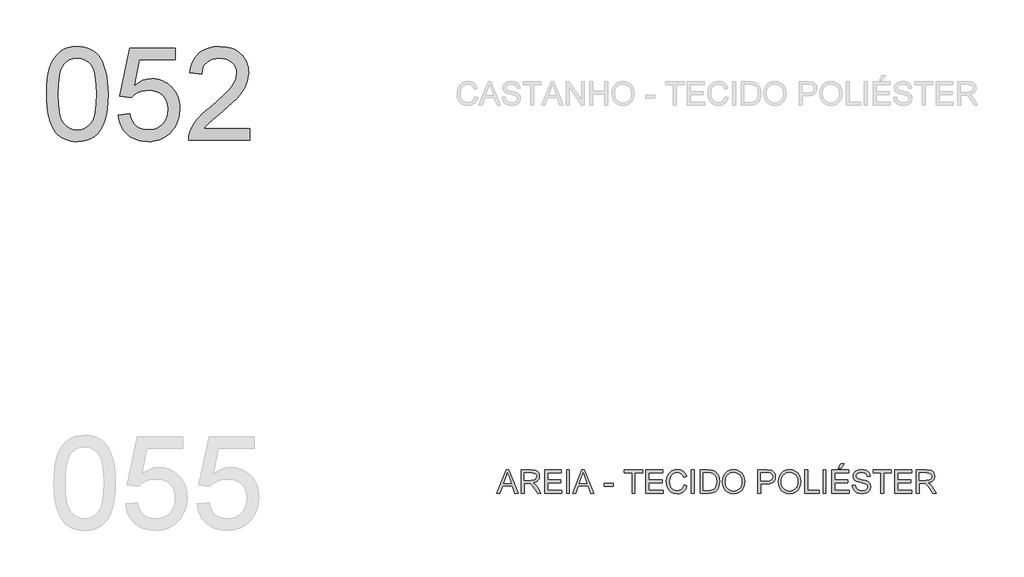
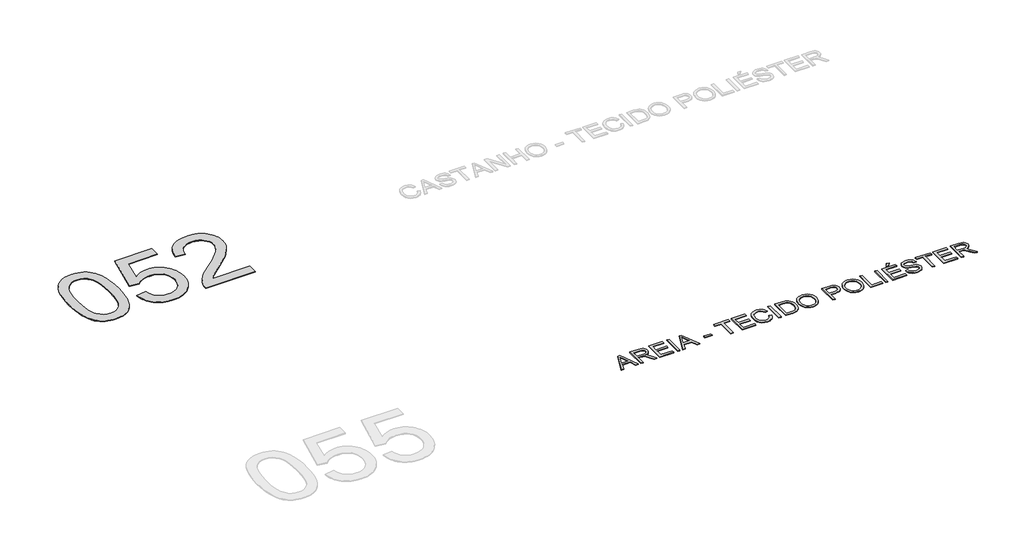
# One storey, part 18 of 67: 2 proxies.
"""IFC4 building model written with IfcOpenShell, lengths in millimetres."""

import ifcopenshell
import ifcopenshell.guid

model = None  # the IFC model being written
_history = None  # IfcOwnerHistory: only IFC2X3 demands one
_inside = {}  # id of a spatial element -> (the spatial element, [elements in it])
_under = {}  # id of a project, library or spatial element -> (it, [spatial elements below it])
_declared = {}  # id of a project -> (the project, [libraries it declares])
_typed = {}  # id of a type object -> (the type object, [elements of that type])
_made_of = {}  # id of a material, layer set ... -> (it, [elements and type objects made of it])


def new_model(schema):
    """Start an empty IFC model of exactly this schema.

    Asked for "IFC4X3", IfcOpenShell would pick the latest addendum, in which some entities
    have other attributes; the version numbers below select the first issue.
    IFC2X3 requires an IfcOwnerHistory on every rooted entity: one is made here for all.
    """
    global model, _history
    if schema == "IFC4X3":
        model = ifcopenshell.file(schema_version=(4, 3, 0, 0))
    else:
        model = ifcopenshell.file(schema=schema)
    _inside.clear()
    _under.clear()
    _declared.clear()
    _typed.clear()
    _made_of.clear()
    _history = None
    if model.schema == "IFC2X3":
        org = make("IfcOrganization", Name="unknown")
        user = make(
            "IfcPersonAndOrganization",
            ThePerson=make("IfcPerson", FamilyName="unknown"),
            TheOrganization=org,
        )
        app = make(
            "IfcApplication",
            ApplicationDeveloper=org,
            Version="unknown",
            ApplicationFullName="unknown",
            ApplicationIdentifier="unknown",
        )
        _history = make(
            "IfcOwnerHistory",
            OwningUser=user,
            OwningApplication=app,
            ChangeAction="ADDED",
            CreationDate=0,
        )
    return model


def make(cls, **values):
    """One entity of the class cls with the attributes given. An attribute that is None is left unset."""
    return model.create_entity(
        cls, **{name: value for name, value in values.items() if value is not None}
    )


def rooted(cls, **values):
    """An entity with a GlobalId (a new one), such as an element, a storey or a relation."""
    return make(cls, GlobalId=ifcopenshell.guid.new(), OwnerHistory=_history, **values)


def si_unit(unit_type, name, prefix=None):
    """IfcSIUnit, for example si_unit("LENGTHUNIT", "METRE", prefix="MILLI")."""
    return make("IfcSIUnit", UnitType=unit_type, Prefix=prefix, Name=name)


def assignment(units):
    """IfcUnitAssignment: the units of a project."""
    return None if units is None else make("IfcUnitAssignment", Units=units)


def point(xyz):
    """IfcCartesianPoint."""
    return None if xyz is None else make("IfcCartesianPoint", Coordinates=xyz)


def direction(xyz):
    """IfcDirection."""
    return None if xyz is None else make("IfcDirection", DirectionRatios=xyz)


def frame(location, z_axis=None, x_axis=None):
    """IfcAxis2Placement3D, a coordinate frame: its origin and axes. An axis left out is left unset."""
    return make(
        "IfcAxis2Placement3D",
        Location=point(location),
        Axis=direction(z_axis),
        RefDirection=direction(x_axis),
    )


def origin():
    """The frame at (0, 0, 0) with its axes left unset."""
    return frame((0.0, 0.0, 0.0))


def origin_with_axes():
    """The frame at (0, 0, 0) with the z axis (0, 0, 1) and the x axis (1, 0, 0) written out."""
    return frame((0.0, 0.0, 0.0), z_axis=(0.0, 0.0, 1.0), x_axis=(1.0, 0.0, 0.0))


def place(relative_to, where):
    """IfcLocalPlacement: puts the frame where relative to a parent placement (None: the world)."""
    return make(
        "IfcLocalPlacement", PlacementRelTo=relative_to, RelativePlacement=where
    )


def context(
    kind, dimensions, precision=None, world=None, true_north=None, identifier=None
):
    """IfcGeometricRepresentationContext, for example the 3D "Model" context."""
    return make(
        "IfcGeometricRepresentationContext",
        ContextIdentifier=identifier,
        ContextType=kind,
        CoordinateSpaceDimension=dimensions,
        Precision=precision,
        WorldCoordinateSystem=world,
        TrueNorth=true_north,
    )


def project(units=None, contexts=None):
    """IfcProject with its units and contexts."""
    return rooted(
        "IfcProject",
        Name="project",
        RepresentationContexts=contexts,
        UnitsInContext=assignment(units),
    )


def spatial(cls, under=None, at=None, **own):
    """A site, building, storey or space (cls), placed at a placement, below another one or the project."""
    s = rooted(cls, ObjectPlacement=at, **own)
    if under is not None:
        _under.setdefault(under.id(), (under, []))[1].append(s)
    return s


def polyline(points):
    """IfcPolyline through the points."""
    return make("IfcPolyline", Points=[point(p) for p in points])


def outline(outer, holes=None, kind="AREA"):
    """IfcArbitraryClosedProfileDef: a profile drawn as a closed curve; with holes, ...WithVoids."""
    if holes is None:
        return make("IfcArbitraryClosedProfileDef", ProfileType=kind, OuterCurve=outer)
    return make(
        "IfcArbitraryProfileDefWithVoids",
        ProfileType=kind,
        OuterCurve=outer,
        InnerCurves=holes,
    )


def extrude(swept, where, along, depth):
    """IfcExtrudedAreaSolid: the profile swept, set in the frame where, extruded along a direction by depth."""
    return make(
        "IfcExtrudedAreaSolid",
        SweptArea=swept,
        Position=where,
        ExtrudedDirection=direction(along),
        Depth=depth,
    )


def shape(context_of_items, identifier, shape_type, items):
    """IfcShapeRepresentation: the items that make up one representation, for example the "Body"."""
    return make(
        "IfcShapeRepresentation",
        ContextOfItems=context_of_items,
        RepresentationIdentifier=identifier,
        RepresentationType=shape_type,
        Items=items,
    )


def made_of(thing, what):
    """Note that an element or type object is made of a material, layer set ...; save() writes the relation."""
    if what is not None:
        _made_of.setdefault(what.id(), (what, []))[1].append(thing)
    return thing


def element(
    cls,
    number,
    at=None,
    inside=None,
    cuts=None,
    type_object=None,
    material=None,
    context=None,
    identifier="Body",
    shape_type=None,
    held_by="IfcProductDefinitionShape",
    body=None,
    shapes=None,
    **own,
):
    """One element of the class cls, such as IfcWall. Its Tag is "e" and its number.

    at: its placement. inside: the storey or other place that contains it. cuts: it is an
    opening in that element (IfcRelVoidsElement). A single representation is given by context,
    identifier, shape_type and body (its items); several are given by shapes. held_by: the class
    of the entity that holds the representations. save() writes the other relations.
    """
    e = rooted(cls, Tag="e%d" % number, ObjectPlacement=at, **own)
    if body is not None:
        shapes = [shape(context, identifier, shape_type, body)]
    if shapes is not None:
        e.Representation = make(held_by, Representations=shapes)
    if inside is not None:
        _inside.setdefault(inside.id(), (inside, []))[1].append(e)
    if cuts is not None:
        rooted(
            "IfcRelVoidsElement", RelatingBuildingElement=cuts, RelatedOpeningElement=e
        )
    if type_object is not None:
        _typed.setdefault(type_object.id(), (type_object, []))[1].append(e)
    return made_of(e, material)


def aggregate(whole, parts):
    """IfcRelAggregates: a whole, such as a stair, and the parts it consists of."""
    return rooted("IfcRelAggregates", RelatingObject=whole, RelatedObjects=parts)


def save(model, path):
    """Write the relations noted so far, then the file.

    IfcRelAggregates (storeys below a building ...), IfcRelContainedInSpatialStructure (elements
    in a storey), IfcRelDefinesByType, IfcRelAssociatesMaterial and IfcRelDeclares: one each for
    every whole, place, type object, material and project.
    """
    for whole, parts in _under.values():
        aggregate(whole, parts)
    for where, things in _inside.values():
        rooted(
            "IfcRelContainedInSpatialStructure",
            RelatedElements=things,
            RelatingStructure=where,
        )
    for kind, things in _typed.values():
        rooted("IfcRelDefinesByType", RelatedObjects=things, RelatingType=kind)
    for what, things in _made_of.values():
        rooted("IfcRelAssociatesMaterial", RelatedObjects=things, RelatingMaterial=what)
    for by, libraries in _declared.values():
        rooted("IfcRelDeclares", RelatingContext=by, RelatedDefinitions=libraries)
    model.write(path)


model = new_model("IFC4")

# Units and contexts
model_context = context("Model", 3, world=origin())
ifc_project = project(units=[si_unit("LENGTHUNIT", "METRE", prefix="MILLI")], contexts=[model_context])

# Site, building, storey
site = spatial("IfcSite", under=ifc_project)
building = spatial("IfcBuilding", under=site)
storey = spatial("IfcBuildingStorey", under=building, Name="Marelli - Linha COLAB - Planta Baixa", Elevation=0.0)

# Proxies
placement = place(None, origin())
element("IfcBuildingElementProxy", 1, Name="1200mm Arial", ObjectType="1200mm Arial", at=placement, inside=storey, context=model_context, shape_type="SweptSolid", body=[
    extrude(outline(polyline([(-25228.2202746, -34887.5405438), (-25225.4519626, -34786.1798571), (-25217.1470265, -34694.5864374), (-25203.3054665, -34612.7602846), (-25183.9272824, -34540.7013988), (-25159.0952477, -34477.8211688), (-25128.8921359, -34423.5309833), (-25093.317947, -34377.8308425), (-25052.3726809, -34340.7207462), (-25005.918382, -34312.0075565), (-24953.8170944, -34291.4981353), (-24896.0688182, -34279.1924825), (-24832.6735534, -34275.0905983), (-24785.032835, -34277.5186194), (-24739.8201378, -34284.8026829), (-24697.0354618, -34296.9427888), (-24656.6788069, -34313.938937), (-24619.7250605, -34335.5060189), (-24587.1491098, -34361.3589261), (-24558.9509549, -34391.4976586), (-24535.1305957, -34425.9222163), (-24514.4924157, -34464.4946435), (-24495.8407986, -34507.0769844), (-24464.4972526, -34604.2714076), (-24452.5226937, -34661.4310726), (-24443.9694373, -34727.6958169), (-24438.8374834, -34803.0656407), (-24437.1268322, -34887.5405438), (-24439.867553, -34988.2574371), (-24448.0897156, -35079.3910043), (-24461.7933199, -35160.9412456), (-24480.978366, -35232.9081609), (-24505.6172626, -35295.8159821), (-24535.6824187, -35350.188941), (-24571.1738342, -35396.0270376), (-24612.0915091, -35433.3302719), (-24658.6009903, -35462.2365997), (-24710.8678248, -35482.8839766), (-24768.8920125, -35495.2724028), (-24832.6735534, -35499.4018782), (-24875.3478648, -35497.6084535), (-24915.6677315, -35492.2281793), (-24953.6331534, -35483.2610557), (-24989.2441305, -35470.7070826), (-25022.5006629, -35454.5662601), (-25053.4027505, -35434.8385881), (-25081.9503933, -35411.5240666), (-25108.1435914, -35384.6226957), (-25136.286564, -35342.0265592), (-25160.6771403, -35293.8478134), (-25181.3153202, -35240.0864583), (-25198.2011038, -35180.742494), (-25211.334491, -35115.8159204), (-25220.7154819, -35045.3067375), (-25226.3440764, -34969.2149453), (-25228.2202746, -34887.5405438)]), holes=[polyline([(-25077.5358094, -34887.2462382), (-25073.1212254, -35018.2398197), (-25059.8774736, -35124.2726077), (-25049.9446597, -35167.9287043), (-25037.8045539, -35205.3446024), (-25023.4571561, -35236.5203023), (-25006.9024663, -35261.4558037), (-24969.5256556, -35299.6327578), (-24928.0285665, -35326.9020107), (-24882.4111991, -35343.2635624), (-24832.6735534, -35348.717413), (-24782.9359076, -35343.2451683), (-24737.3185402, -35326.8284343), (-24695.8214512, -35299.4672109), (-24658.4446405, -35261.1614981), (-24641.8899507, -35236.1662158), (-24627.5425529, -35204.9583263), (-24615.402447, -35167.5378296), (-24605.4696332, -35123.9047257), (-24592.2258813, -35018.0006964), (-24587.8112974, -34887.2462382), (-24592.0787285, -34759.7199446), (-24604.881022, -34655.5541577), (-24614.482742, -34612.2314542), (-24626.2181777, -34574.7488774), (-24640.0873289, -34543.1064273), (-24656.0901957, -34517.3041039), (-24692.841607, -34477.2601487), (-24734.8169427, -34448.6573236), (-24782.0162026, -34431.4956285), (-24834.4393869, -34425.7750635), (-24883.9195153, -34430.8150468), (-24928.7643305, -34445.9349968), (-24968.9738326, -34471.1349135), (-25004.5480215, -34506.4147968), (-25021.6545343, -34534.9624397), (-25036.4801787, -34568.954736), (-25049.0249547, -34608.3916859), (-25059.2888624, -34653.2732893), (-25072.9740726, -34759.3704567), (-25077.5358094, -34887.2462382)])]), origin_with_axes(), (0.0, 0.0, 1.0), 10.0),
    extrude(outline(polyline([(-24305.2779251, -35160.3618315), (-24154.5934599, -35141.5262733), (-24143.3362708, -35189.967135), (-24126.9287338, -35231.9884559), (-24105.3708489, -35267.590236), (-24078.6626161, -35296.7724753), (-24046.8592176, -35319.4983855), (-24010.0158358, -35335.7311786), (-23968.1324706, -35345.4708544), (-23921.2091221, -35348.717413), (-23863.8195309, -35344.2016615), (-23813.1989683, -35330.654407), (-23769.3474345, -35308.0756496), (-23732.2649294, -35276.4653891), (-23702.7791875, -35237.3871242), (-23681.7179433, -35192.4043532), (-23669.0811967, -35141.5170763), (-23664.8689479, -35084.7252933), (-23668.8144823, -35031.0513102), (-23680.6510855, -34983.3370154), (-23700.3787575, -34941.5824089), (-23727.9974983, -34905.7874908), (-23763.5992783, -34877.0743011), (-23807.2760682, -34856.5648798), (-23859.0278679, -34844.2592271), (-23918.8546774, -34840.1573429), (-23957.141996, -34841.7944177), (-23991.9528298, -34846.7056424), (-24023.2871787, -34854.8910168), (-24051.1450428, -34866.3505409), (-24098.4178792, -34896.4432881), (-24135.7579017, -34934.3351336), (-24286.4423669, -34915.4995755), (-24154.5934599, -34293.9261564), (-23570.6911571, -34293.9261564), (-23570.6911571, -34444.6106217), (-24032.7509431, -34444.6106217), (-24097.2038686, -34776.5873341), (-24044.0265262, -34738.4747594), (-23989.5615968, -34711.2514918), (-23933.8090805, -34694.9175312), (-23876.7689771, -34689.4728776), (-23839.3300863, -34691.1605363), (-23803.3857161, -34696.2235123), (-23768.9358665, -34704.6618055), (-23735.9805376, -34716.4754161), (-23704.5197292, -34731.664344), (-23674.5534414, -34750.2285891), (-23646.0816742, -34772.1681516), (-23619.1044277, -34797.4830314), (-23594.5138156, -34825.4512601), (-23573.2019517, -34855.3508693), (-23555.1688362, -34887.1818589), (-23540.4144689, -34920.944229), (-23528.9388499, -34956.6379796), (-23520.7419792, -34994.2631106), (-23515.8238568, -35033.8196222), (-23514.1844827, -35075.3075142), (-23520.0889887, -35153.3720736), (-23527.4696212, -35190.3626082), (-23537.8025067, -35225.9919794), (-23551.0876453, -35260.2601873), (-23567.3250369, -35293.1672317), (-23586.5146814, -35324.7131128), (-23608.656579, -35354.8978305), (-23638.6573557, -35388.7659667), (-23671.2700946, -35418.1183514), (-23706.4947956, -35442.9549846), (-23744.3314588, -35463.2758663), (-23784.7800842, -35479.0809965), (-23827.8406717, -35490.3703752), (-23873.5132214, -35497.1440025), (-23921.7977333, -35499.4018782), (-23999.55879, -35493.5985397), (-24035.6181234, -35486.3443667), (-24069.79666, -35476.1885243), (-24102.0943999, -35463.1310128), (-24132.5113431, -35447.171832), (-24161.0474896, -35428.3109819), (-24187.7028394, -35406.5484626), (-24212.0405327, -35382.3901119), (-24233.6237095, -35356.3417673), (-24252.4523698, -35328.4034291), (-24268.5265138, -35298.5750971), (-24281.8461413, -35266.8567713), (-24292.4112523, -35233.2484518), (-24305.2779251, -35160.3618315)])), origin_with_axes(), (0.0, 0.0, 1.0), 10.0),
    extrude(outline(polyline([(-22610.0776913, -35329.8818548), (-22610.0776913, -35480.5663201), (-23401.1711337, -35480.5663201), (-23397.8601958, -35427.5177364), (-23384.984326, -35376.6764446), (-23368.5583949, -35335.7771638), (-23347.8282444, -35295.4848883), (-23322.7938747, -35255.7996181), (-23293.4552856, -35216.7213531), (-23258.0466435, -35176.7233832), (-23214.802115, -35134.278998), (-23104.8053984, -35042.0509818), (-23015.3732854, -34965.1084625), (-22942.2015566, -34897.6205105), (-22885.2902119, -34839.5871258), (-22844.6392514, -34791.0083083), (-22816.1835791, -34747.4510801), (-22795.8580989, -34704.482463), (-22783.6628107, -34662.1024572), (-22779.5977147, -34620.3110625), (-22783.4328845, -34580.9936743), (-22794.9383939, -34544.8584653), (-22814.1142429, -34511.9054356), (-22840.9604315, -34482.1345852), (-22873.9870376, -34457.4772944), (-22911.7041392, -34439.8649439), (-22954.1117362, -34429.2975336), (-23001.2098286, -34425.7750635), (-23050.8279127, -34429.2147602), (-23095.2036784, -34439.5338501), (-23134.3371256, -34456.7323334), (-23168.2282544, -34480.81021), (-23195.6446601, -34510.9581395), (-23215.353938, -34546.3667815), (-23227.3560881, -34587.0361361), (-23231.6511104, -34632.9662032), (-23382.3355756, -34614.130645), (-23369.3769323, -34536.3419971), (-23358.9175873, -34501.1310917), (-23345.8048935, -34468.3757985), (-23330.0388507, -34438.0761177), (-23311.6194591, -34410.2320492), (-23290.5467185, -34384.843593), (-23266.8206291, -34361.9107491), (-23240.6987082, -34341.5622763), (-23212.4384732, -34323.9269331), (-23182.0399241, -34309.0047197), (-23149.5030608, -34296.795636), (-23078.0143921, -34280.5168577), (-22997.972467, -34275.0905983), (-22917.213172, -34281.123863), (-22880.1651559, -34288.6654439), (-22845.3382272, -34299.2236572), (-22812.7323861, -34312.7985028), (-22782.3476326, -34329.3899808), (-22754.1839666, -34348.9980911), (-22728.2413882, -34371.6228338), (-22704.9613557, -34396.4824596), (-22684.7853275, -34422.7952193), (-22667.7133036, -34450.5611129), (-22653.7452841, -34479.7801404), (-22642.881269, -34510.4523017), (-22635.1212581, -34542.577597), (-22630.4652516, -34576.1560261), (-22628.9132495, -34611.1875891), (-22630.5871125, -34647.3779803), (-22635.6087018, -34683.2556719), (-22643.9780172, -34718.8206638), (-22655.6950587, -34754.072956), (-22671.3024524, -34789.6287508), (-22691.342824, -34826.1042506), (-22744.7225015, -34901.8143653), (-22781.5566863, -34943.798898), (-22829.813607, -34992.2029715), (-22960.5956563, -35108.2697409), (-23133.9416524, -35253.215247), (-23171.5391924, -35291.4381863), (-23201.9262452, -35329.8818548), (-22610.0776913, -35329.8818548)])), origin_with_axes(), (0.0, 0.0, 1.0), 10.0),
])
element("IfcBuildingElementProxy", 2, Name="300mm Arial", ObjectType="300mm Arial", at=placement, inside=storey, context=model_context, shape_type="SweptSolid", body=[
    extrude(outline(polyline([(-19432.6175582, -40030.5663201), (-19312.3201458, -39729.1973896), (-19280.2408358, -39729.1973896), (-19159.9434234, -40030.5663201), (-19199.7482553, -40030.5663201), (-19234.2555864, -39936.3885293), (-19358.3789716, -39936.3885293), (-19392.8127264, -40030.5663201), (-19432.6175582, -40030.5663201)]), holes=[polyline([(-19344.5466086, -39898.717413), (-19248.0143731, -39898.717413), (-19275.1640643, -39824.6259792), (-19296.2804908, -39766.8685059), (-19315.0424726, -39818.1512561), (-19344.5466086, -39898.717413)])]), origin_with_axes(), (0.0, 0.0, 1.0), 10.0),
    extrude(outline(polyline([(-19119.6971331, -40030.5663201), (-19119.6971331, -39729.1973896), (-18989.8347888, -39729.1973896), (-18954.9319846, -39731.2299376), (-18929.5389298, -39737.3275817), (-18910.9792832, -39748.5847708), (-18896.5767031, -39766.0959537), (-18887.3336679, -39787.8101885), (-18884.2526562, -39811.6765329), (-18889.3570189, -39841.3646099), (-18904.670107, -39865.9759154), (-18916.2698861, -39876.0052983), (-18930.6517729, -39884.0205273), (-18967.7618691, -39894.0085235), (-18946.351137, -39910.1217548), (-18915.8169314, -39948.8965171), (-18865.5642509, -40030.5663201), (-18909.3422083, -40030.5663201), (-18948.558429, -39968.0999573), (-18976.8853426, -39926.750021), (-18996.7877586, -39907.2154871), (-19014.7036117, -39900.0417882), (-19036.5558022, -39898.717413), (-19082.0260168, -39898.717413), (-19082.0260168, -40030.5663201), (-19119.6971331, -40030.5663201)]), holes=[polyline([(-19082.0260168, -39861.0462967), (-18997.7074635, -39861.0462967), (-18973.4916312, -39859.7127245), (-18954.7020583, -39855.7120078), (-18940.5569956, -39848.7774322), (-18930.2746938, -39838.6422832), (-18924.0115029, -39826.3826157), (-18921.9237725, -39813.0744845), (-18925.9060951, -39794.6987789), (-18937.8530629, -39779.8915286), (-18958.4084694, -39770.1242616), (-18988.2161081, -39766.8685059), (-19082.0260168, -39766.8685059), (-19082.0260168, -39861.0462967)])]), origin_with_axes(), (0.0, 0.0, 1.0), 10.0),
    extrude(outline(polyline([(-18818.3282027, -40030.5663201), (-18818.3282027, -39729.1973896), (-18601.7192839, -39729.1973896), (-18601.7192839, -39766.8685059), (-18780.6570864, -39766.8685059), (-18780.6570864, -39856.3374072), (-18611.137063, -39856.3374072), (-18611.137063, -39894.0085235), (-18780.6570864, -39894.0085235), (-18780.6570864, -39992.8952038), (-18597.0103944, -39992.8952038), (-18597.0103944, -40030.5663201), (-18818.3282027, -40030.5663201)])), origin_with_axes(), (0.0, 0.0, 1.0), 10.0),
    extrude(outline(polyline([(-18535.7948304, -40030.5663201), (-18535.7948304, -39729.1973896), (-18498.1237141, -39729.1973896), (-18498.1237141, -40030.5663201), (-18535.7948304, -40030.5663201)])), origin_with_axes(), (0.0, 0.0, 1.0), 10.0),
    extrude(outline(polyline([(-18457.8774238, -40030.5663201), (-18337.5800114, -39729.1973896), (-18305.5007014, -39729.1973896), (-18185.203289, -40030.5663201), (-18225.0081209, -40030.5663201), (-18259.515452, -39936.3885293), (-18383.6388372, -39936.3885293), (-18418.0725919, -40030.5663201), (-18457.8774238, -40030.5663201)]), holes=[polyline([(-18369.8064742, -39898.717413), (-18273.2742386, -39898.717413), (-18300.4239299, -39824.6259792), (-18321.5403564, -39766.8685059), (-18340.3023382, -39818.1512561), (-18369.8064742, -39898.717413)])]), origin_with_axes(), (0.0, 0.0, 1.0), 10.0),
    extrude(outline(polyline([(-18050.779208, -39941.0974188), (-18050.779208, -39903.4263025), (-17933.0569695, -39903.4263025), (-17933.0569695, -39941.0974188), (-18050.779208, -39941.0974188)])), origin_with_axes(), (0.0, 0.0, 1.0), 10.0),
    extrude(outline(polyline([(-17692.903603, -40030.5663201), (-17692.903603, -39766.8685059), (-17791.7902834, -39766.8685059), (-17791.7902834, -39729.1973896), (-17556.3458064, -39729.1973896), (-17556.3458064, -39766.8685059), (-17655.2324867, -39766.8685059), (-17655.2324867, -40030.5663201), (-17692.903603, -40030.5663201)])), origin_with_axes(), (0.0, 0.0, 1.0), 10.0),
    extrude(outline(polyline([(-17513.9658006, -40030.5663201), (-17513.9658006, -39729.1973896), (-17297.3568818, -39729.1973896), (-17297.3568818, -39766.8685059), (-17476.2946843, -39766.8685059), (-17476.2946843, -39856.3374072), (-17306.7746609, -39856.3374072), (-17306.7746609, -39894.0085235), (-17476.2946843, -39894.0085235), (-17476.2946843, -39992.8952038), (-17292.6479923, -39992.8952038), (-17292.6479923, -40030.5663201), (-17513.9658006, -40030.5663201)])), origin_with_axes(), (0.0, 0.0, 1.0), 10.0),
    extrude(outline(polyline([(-17024.2412886, -39923.4390831), (-16986.5701723, -39933.1511677), (-16994.0243812, -39956.5783531), (-17003.9525966, -39977.0486868), (-17016.3548183, -39994.5621691), (-17031.2310465, -40009.1187997), (-17048.2455888, -40020.5622291), (-17067.0627529, -40028.7361071), (-17087.6825387, -40033.640434), (-17110.1049463, -40035.2752096), (-17153.8001303, -40030.3271968), (-17188.5005995, -40015.4831583), (-17215.0984677, -39991.2581289), (-17234.4858489, -39958.1671434), (-17246.3224521, -39919.2636224), (-17250.2679865, -39877.6009865), (-17245.8074173, -39833.6574821), (-17232.4257097, -39795.7104543), (-17210.8218395, -39764.9647166), (-17181.6947826, -39742.6250824), (-17147.1506632, -39729.0226457), (-17109.2956059, -39724.4885001), (-17067.9916549, -39730.3562179), (-17050.0229187, -39737.6908652), (-17033.8430087, -39747.9593714), (-17019.7186393, -39760.8904235), (-17007.9165251, -39776.2127086), (-16991.2790618, -39814.0309777), (-17028.9501782, -39823.0072984), (-17042.009989, -39795.5357104), (-17059.8522657, -39776.6909552), (-17082.6977376, -39765.7924511), (-17110.7671339, -39762.1596164), (-17143.1223554, -39766.1879242), (-17169.7018295, -39778.2728478), (-17189.8709599, -39797.1451941), (-17202.9951501, -39821.5357704), (-17210.1964401, -39849.1085259), (-17212.5968701, -39877.5274101), (-17209.7549817, -39912.3290468), (-17201.2293165, -39942.421794), (-17186.6979777, -39966.6560205), (-17165.8390686, -39983.8820949), (-17140.8322899, -39994.1735937), (-17113.8573426, -39997.6040933), (-17082.4126291, -39992.931992), (-17056.210234, -39978.9156879), (-17036.4273797, -39955.702334), (-17024.2412886, -39923.4390831)])), origin_with_axes(), (0.0, 0.0, 1.0), 10.0),
    extrude(outline(polyline([(-16930.0634979, -40030.5663201), (-16930.0634979, -39729.1973896), (-16892.3923815, -39729.1973896), (-16892.3923815, -40030.5663201), (-16930.0634979, -40030.5663201)])), origin_with_axes(), (0.0, 0.0, 1.0), 10.0),
    extrude(outline(polyline([(-16817.0501489, -40030.5663201), (-16817.0501489, -39729.1973896), (-16713.0866971, -39729.1973896), (-16659.3023494, -39733.5383972), (-16635.2796551, -39741.9077126), (-16615.0093572, -39755.0962821), (-16594.1688422, -39778.0521186), (-16579.3248036, -39806.5997614), (-16570.4404535, -39840.1873876), (-16567.4790034, -39878.2631741), (-16569.4839603, -39910.6091985), (-16575.4988309, -39939.0740679), (-16584.6590926, -39963.3082943), (-16596.1002226, -39982.9623899), (-16609.2703981, -39998.477813), (-16623.6177959, -40010.2960221), (-16640.0897122, -40019.0608107), (-16659.6334432, -40025.4159721), (-16708.083502, -40030.5663201), (-16817.0501489, -40030.5663201)]), holes=[polyline([(-16779.3790326, -39992.8952038), (-16712.7188151, -39992.8952038), (-16685.1460596, -39991.5340404), (-16664.2319681, -39987.4505502), (-16648.4498305, -39980.8838566), (-16636.2729365, -39972.0730828), (-16623.1855345, -39955.7667134), (-16613.3538882, -39934.6594839), (-16607.2010618, -39908.6594239), (-16605.1501197, -39877.6745629), (-16609.1692305, -39836.6189322), (-16621.2265629, -39806.3054558), (-16639.0412485, -39785.4833349), (-16660.332419, -39772.9017706), (-16682.0006685, -39768.3768221), (-16713.7488847, -39766.8685059), (-16779.3790326, -39766.8685059), (-16779.3790326, -39992.8952038)])]), origin_with_axes(), (0.0, 0.0, 1.0), 10.0),
    extrude(outline(polyline([(-16529.8078871, -39883.8549804), (-16527.2970925, -39848.5061192), (-16519.7647086, -39817.213157), (-16507.2107355, -39789.9760937), (-16489.6351732, -39766.7949295), (-16468.0910839, -39748.2858666), (-16443.6315297, -39735.0651074), (-16416.2565108, -39727.1326519), (-16385.966027, -39724.4885001), (-16346.4371066, -39729.454907), (-16310.9916764, -39744.3541278), (-16281.5611168, -39768.1376988), (-16260.0768082, -39799.7571563), (-16246.943421, -39837.68579), (-16242.5656253, -39880.3968896), (-16247.1733473, -39923.6782064), (-16260.9965132, -39962.140269), (-16283.271768, -39993.8149087), (-16313.2357565, -40016.733957), (-16348.3776841, -40030.6398965), (-16386.1867562, -40035.2752096), (-16426.3226819, -40030.1524528), (-16461.9704472, -40014.7841825), (-16491.3274304, -39990.5591531), (-16512.5910097, -39958.8661192), (-16525.5036678, -39922.3998164), (-16529.8078871, -39883.8549804)]), holes=[polyline([(-16492.1367708, -39884.2228624), (-16490.2536748, -39909.1974513), (-16484.6043869, -39931.3669401), (-16475.1889071, -39950.7313286), (-16462.0072354, -39967.2906169), (-16445.9836752, -39980.5527628), (-16428.0425302, -39990.0257242), (-16408.1838002, -39995.709501), (-16386.4074854, -39997.6040933), (-16364.25869, -39995.6911069), (-16344.1654353, -39989.9521478), (-16326.1277212, -39980.3872159), (-16310.1455478, -39966.9963113), (-16297.0604451, -39950.0875351), (-16287.7139431, -39929.9689885), (-16282.106042, -39906.6406715), (-16280.2367416, -39880.102584), (-16283.4373149, -39846.7540812), (-16293.039035, -39817.9305269), (-16308.7935814, -39794.358488), (-16330.4526339, -39776.7645316), (-16356.5814526, -39765.8108452), (-16385.7452978, -39762.1596164), (-16406.7651553, -39763.9185522), (-16426.2674996, -39769.1953595), (-16444.2523306, -39777.9900385), (-16460.7196484, -39790.302589), (-16474.4646394, -39806.7262208), (-16484.2824902, -39827.8541437), (-16490.1732006, -39853.6863575), (-16492.1367708, -39884.2228624)])]), origin_with_axes(), (0.0, 0.0, 1.0), 10.0),
    extrude(outline(polyline([(-16073.0456019, -40030.5663201), (-16073.0456019, -39729.1973896), (-15961.3566282, -39729.1973896), (-15916.3278719, -39732.0668692), (-15896.2507121, -39737.4287493), (-15879.7236134, -39746.1567496), (-15866.4154822, -39758.6463433), (-15855.9952247, -39775.2930036), (-15849.2629842, -39794.9287051), (-15847.0189041, -39816.3854225), (-15848.534118, -39834.8852883), (-15853.0797599, -39851.9044291), (-15860.6558298, -39867.4428449), (-15871.2623275, -39881.5005356), (-15885.8235568, -39893.1531978), (-15905.2638209, -39901.476528), (-15929.5831201, -39906.470526), (-15958.7814542, -39908.1351921), (-16035.3744856, -39908.1351921), (-16035.3744856, -40030.5663201), (-16073.0456019, -40030.5663201)]), holes=[polyline([(-16035.3744856, -39870.4640758), (-15956.5741622, -39870.4640758), (-15923.1704771, -39867.005985), (-15901.0975573, -39856.6317127), (-15888.7919046, -39839.9850525), (-15884.6900204, -39817.7097977), (-15887.1088445, -39800.7872259), (-15894.3653168, -39786.5134045), (-15905.5581265, -39775.7712502), (-15919.7859627, -39769.4436799), (-15957.457079, -39766.8685059), (-16035.3744856, -39766.8685059), (-16035.3744856, -39870.4640758)])]), origin_with_axes(), (0.0, 0.0, 1.0), 10.0),
    extrude(outline(polyline([(-15809.3477877, -39883.8549804), (-15806.8369931, -39848.5061192), (-15799.3046093, -39817.213157), (-15786.7506362, -39789.9760937), (-15769.1750739, -39766.7949295), (-15747.6309845, -39748.2858666), (-15723.1714304, -39735.0651074), (-15695.7964114, -39727.1326519), (-15665.5059276, -39724.4885001), (-15625.9770072, -39729.454907), (-15590.531577, -39744.3541278), (-15561.1010174, -39768.1376988), (-15539.6167089, -39799.7571563), (-15526.4833217, -39837.68579), (-15522.1055259, -39880.3968896), (-15526.7132479, -39923.6782064), (-15540.5364139, -39962.140269), (-15562.8116687, -39993.8149087), (-15592.7756572, -40016.733957), (-15627.9175848, -40030.6398965), (-15665.7266568, -40035.2752096), (-15705.8625825, -40030.1524528), (-15741.5103478, -40014.7841825), (-15770.867331, -39990.5591531), (-15792.1309104, -39958.8661192), (-15805.0435684, -39922.3998164), (-15809.3477877, -39883.8549804)]), holes=[polyline([(-15771.6766714, -39884.2228624), (-15769.7935755, -39909.1974513), (-15764.1442876, -39931.3669401), (-15754.7288078, -39950.7313286), (-15741.547136, -39967.2906169), (-15725.5235759, -39980.5527628), (-15707.5824308, -39990.0257242), (-15687.7237009, -39995.709501), (-15665.947386, -39997.6040933), (-15643.7985907, -39995.6911069), (-15623.7053359, -39989.9521478), (-15605.6676219, -39980.3872159), (-15589.6854484, -39966.9963113), (-15576.6003457, -39950.0875351), (-15567.2538438, -39929.9689885), (-15561.6459426, -39906.6406715), (-15559.7766422, -39880.102584), (-15562.9772156, -39846.7540812), (-15572.5789356, -39817.9305269), (-15588.3334821, -39794.358488), (-15609.9925346, -39776.7645316), (-15636.1213533, -39765.8108452), (-15665.2851984, -39762.1596164), (-15686.3050559, -39763.9185522), (-15705.8074002, -39769.1953595), (-15723.7922312, -39777.9900385), (-15740.2595491, -39790.302589), (-15754.0045401, -39806.7262208), (-15763.8223908, -39827.8541437), (-15769.7131013, -39853.6863575), (-15771.6766714, -39884.2228624)])]), origin_with_axes(), (0.0, 0.0, 1.0), 10.0),
    extrude(outline(polyline([(-15470.307741, -40030.5663201), (-15470.307741, -39729.1973896), (-15432.6366247, -39729.1973896), (-15432.6366247, -39992.8952038), (-15281.9521595, -39992.8952038), (-15281.9521595, -40030.5663201), (-15470.307741, -40030.5663201)])), origin_with_axes(), (0.0, 0.0, 1.0), 10.0),
    extrude(outline(polyline([(-15234.8632641, -40030.5663201), (-15234.8632641, -39729.1973896), (-15197.1921478, -39729.1973896), (-15197.1921478, -40030.5663201), (-15234.8632641, -40030.5663201)])), origin_with_axes(), (0.0, 0.0, 1.0), 10.0),
    extrude(outline(polyline([(-15121.8499152, -40030.5663201), (-15121.8499152, -39729.1973896), (-14905.2409964, -39729.1973896), (-14905.2409964, -39766.8685059), (-15084.1787989, -39766.8685059), (-15084.1787989, -39856.3374072), (-14914.6587755, -39856.3374072), (-14914.6587755, -39894.0085235), (-15084.1787989, -39894.0085235), (-15084.1787989, -39992.8952038), (-14900.5321069, -39992.8952038), (-14900.5321069, -40030.5663201), (-15121.8499152, -40030.5663201)])), origin_with_axes(), (0.0, 0.0, 1.0), 10.0),
    extrude(outline(polyline([(-15037.0899035, -39710.3618315), (-15008.8365662, -39653.855157), (-14961.7476709, -39653.855157), (-15008.8365662, -39710.3618315), (-15037.0899035, -39710.3618315)])), origin_with_axes(), (0.0, 0.0, 1.0), 10.0),
    extrude(outline(polyline([(-14858.152101, -39926.9707502), (-14820.4809847, -39926.9707502), (-14816.1583713, -39947.8756446), (-14808.3408789, -39964.6786547), (-14796.1455907, -39978.0143771), (-14778.6895901, -39988.517408), (-14757.3524343, -39995.332422), (-14733.513681, -39997.6040933), (-14712.5260132, -39995.884245), (-14694.1503076, -39990.7247), (-14679.2602838, -39982.5577197), (-14668.7296617, -39971.8155654), (-14662.4664707, -39959.4823216), (-14660.3787404, -39946.5420724), (-14661.9422389, -39933.932917), (-14666.6327343, -39923.0344129), (-14676.160878, -39913.7361954), (-14692.2373212, -39905.9279001), (-14747.0885267, -39891.5437141), (-14783.0949769, -39882.0247675), (-14806.1335869, -39872.9656733), (-14824.8863716, -39860.2921386), (-14838.1761087, -39844.9330653), (-14846.0947686, -39827.2195472), (-14848.7343219, -39807.4826782), (-14845.4693692, -39785.4189555), (-14835.6745111, -39764.845155), (-14819.607265, -39747.4075484), (-14797.5251482, -39734.7524077), (-14771.0192505, -39727.054477), (-14741.6806613, -39724.4885001), (-14709.895657, -39727.1740386), (-14682.0837781, -39735.2306543), (-14659.2383062, -39748.4928003), (-14642.3525226, -39766.7949295), (-14631.6655507, -39788.9966079), (-14627.4165136, -39813.9574013), (-14665.0876299, -39813.9574013), (-14672.0038115, -39791.4798114), (-14686.4247857, -39775.2562154), (-14708.9575579, -39765.4337661), (-14740.2091334, -39762.1596164), (-14772.1964728, -39765.3969779), (-14794.1406339, -39775.1090626), (-14806.8325627, -39789.4012781), (-14811.0632056, -39806.3790322), (-14808.0649674, -39820.8551887), (-14799.0702526, -39832.4986539), (-14777.8066733, -39842.9097143), (-14737.560383, -39853.541504), (-14696.0265057, -39863.6398648), (-14670.9001655, -39872.4506385), (-14649.425054, -39886.1174547), (-14634.4430597, -39902.9848441), (-14625.641483, -39922.868866), (-14622.7076241, -39945.5855792), (-14626.0829414, -39968.8081301), (-14636.2088933, -39990.6511236), (-14652.6716126, -40009.4498935), (-14675.057232, -40023.539774), (-14701.976997, -40032.3413507), (-14732.0421531, -40035.2752096), (-14768.9499142, -40032.1114244), (-14799.32777, -40022.620069), (-14823.5252082, -40006.764355), (-14841.8917168, -39984.5074943), (-14853.6823348, -39957.3945912), (-14858.152101, -39926.9707502)])), origin_with_axes(), (0.0, 0.0, 1.0), 10.0),
    extrude(outline(polyline([(-14490.858717, -40030.5663201), (-14490.858717, -39766.8685059), (-14589.7453973, -39766.8685059), (-14589.7453973, -39729.1973896), (-14354.3009204, -39729.1973896), (-14354.3009204, -39766.8685059), (-14453.1876007, -39766.8685059), (-14453.1876007, -40030.5663201), (-14490.858717, -40030.5663201)])), origin_with_axes(), (0.0, 0.0, 1.0), 10.0),
    extrude(outline(polyline([(-14311.9209146, -40030.5663201), (-14311.9209146, -39729.1973896), (-14095.3119958, -39729.1973896), (-14095.3119958, -39766.8685059), (-14274.2497983, -39766.8685059), (-14274.2497983, -39856.3374072), (-14104.7297749, -39856.3374072), (-14104.7297749, -39894.0085235), (-14274.2497983, -39894.0085235), (-14274.2497983, -39992.8952038), (-14090.6031063, -39992.8952038), (-14090.6031063, -40030.5663201), (-14311.9209146, -40030.5663201)])), origin_with_axes(), (0.0, 0.0, 1.0), 10.0),
    extrude(outline(polyline([(-14034.0964318, -40030.5663201), (-14034.0964318, -39729.1973896), (-13904.2340875, -39729.1973896), (-13869.3312832, -39731.2299376), (-13843.9382285, -39737.3275817), (-13825.3785819, -39748.5847708), (-13810.9760017, -39766.0959537), (-13801.7329666, -39787.8101885), (-13798.6519549, -39811.6765329), (-13803.7563176, -39841.3646099), (-13819.0694056, -39865.9759154), (-13830.6691848, -39876.0052983), (-13845.0510715, -39884.0205273), (-13882.1611678, -39894.0085235), (-13860.7504357, -39910.1217548), (-13830.2162301, -39948.8965171), (-13779.9635496, -40030.5663201), (-13823.741507, -40030.5663201), (-13862.9577277, -39968.0999573), (-13891.2846413, -39926.750021), (-13911.1870572, -39907.2154871), (-13929.1029104, -39900.0417882), (-13950.9551009, -39898.717413), (-13996.4253155, -39898.717413), (-13996.4253155, -40030.5663201), (-14034.0964318, -40030.5663201)]), holes=[polyline([(-13996.4253155, -39861.0462967), (-13912.1067622, -39861.0462967), (-13887.8909299, -39859.7127245), (-13869.101357, -39855.7120078), (-13854.9562943, -39848.7774322), (-13844.6739925, -39838.6422832), (-13838.4108015, -39826.3826157), (-13836.3230712, -39813.0744845), (-13840.3053938, -39794.6987789), (-13852.2523616, -39779.8915286), (-13872.8077681, -39770.1242616), (-13902.6154067, -39766.8685059), (-13996.4253155, -39766.8685059), (-13996.4253155, -39861.0462967)])]), origin_with_axes(), (0.0, 0.0, 1.0), 10.0),
])

save(model, "model.ifc")
